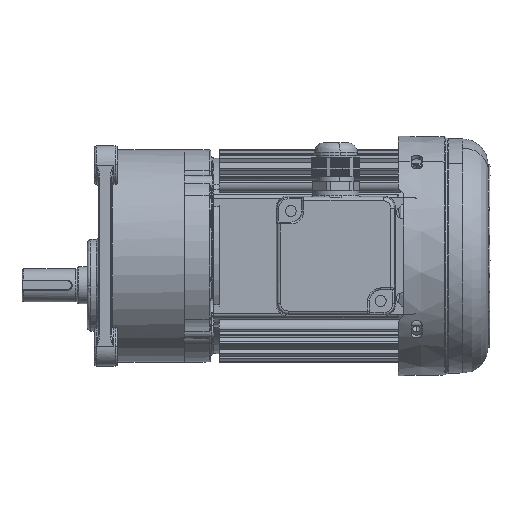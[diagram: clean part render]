
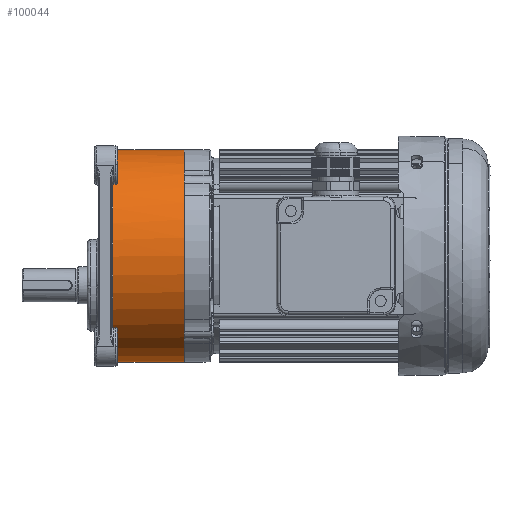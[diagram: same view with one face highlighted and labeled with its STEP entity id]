
A CAD part, left-side view. The second image highlights one B-rep face of the part: STEP entity #100044.
In plain terms, the highlighted cylindrical face has radius 58 mm (diameter 116 mm), a partial arc.
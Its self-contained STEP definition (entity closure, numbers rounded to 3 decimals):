
#33091 = FACE_OUTER_BOUND ( 'NONE', #99547, .T. ) ;
#33098 = AXIS2_PLACEMENT_3D ( 'NONE', #59797, #59798, #59799 ) ;
#33100 = CYLINDRICAL_SURFACE ( 'NONE', #33098, 58. ) ;
#33165 = AXIS2_PLACEMENT_3D ( 'NONE', #60262, #60263, #60264 ) ;
#50969 = CARTESIAN_POINT ( 'NONE',  ( -57.999, 40.5, -0.323 ) ) ;
#50970 = CARTESIAN_POINT ( 'NONE',  ( 0., 40.5, 58. ) ) ;
#51122 = CARTESIAN_POINT ( 'NONE',  ( 0., 1.5, 58. ) ) ;
#51123 = CARTESIAN_POINT ( 'NONE',  ( 0., 1.5, -58. ) ) ;
#51124 = CARTESIAN_POINT ( 'NONE',  ( 0., 40.5, -58. ) ) ;
#54385 = CIRCLE ( 'NONE', #33165, 58. ) ;
#54505 = CIRCLE ( 'NONE', #65187, 58. ) ;
#54506 = CIRCLE ( 'NONE', #65183, 58. ) ;
#59797 = CARTESIAN_POINT ( 'NONE',  ( 0., 0., 0. ) ) ;
#59798 = DIRECTION ( 'NONE',  ( 0., 1., 0. ) ) ;
#59799 = DIRECTION ( 'NONE',  ( 0., 0., 1. ) ) ;
#60262 = CARTESIAN_POINT ( 'NONE',  ( 0., 40.5, 0. ) ) ;
#60263 = DIRECTION ( 'NONE',  ( 0., 1., 0. ) ) ;
#60264 = DIRECTION ( 'NONE',  ( 1., 0., 0. ) ) ;
#63266 = LINE ( 'NONE', #63267, #111455 ) ;
#63267 = CARTESIAN_POINT ( 'NONE',  ( 0., 0., -58. ) ) ;
#63268 = DIRECTION ( 'NONE',  ( 0., 1., 0. ) ) ;
#63274 = CARTESIAN_POINT ( 'NONE',  ( 0., 1.5, 0. ) ) ;
#63275 = LINE ( 'NONE', #63276, #65189 ) ;
#63276 = CARTESIAN_POINT ( 'NONE',  ( 0., 0., 58. ) ) ;
#63277 = DIRECTION ( 'NONE',  ( 0., 1., 0. ) ) ;
#63278 = DIRECTION ( 'NONE',  ( 0., 1., 0. ) ) ;
#63279 = DIRECTION ( 'NONE',  ( 0., 0., -1. ) ) ;
#63280 = CARTESIAN_POINT ( 'NONE',  ( 0., 40.5, 0. ) ) ;
#63281 = DIRECTION ( 'NONE',  ( 0., 1., 0. ) ) ;
#63282 = DIRECTION ( 'NONE',  ( 1., 0., 0. ) ) ;
#65183 = AXIS2_PLACEMENT_3D ( 'NONE', #63280, #63281, #63282 ) ;
#65187 = AXIS2_PLACEMENT_3D ( 'NONE', #63274, #63278, #63279 ) ;
#65189 = VECTOR ( 'NONE', #63277, 1000. ) ;
#99204 = VERTEX_POINT ( 'NONE', #50969 ) ;
#99205 = VERTEX_POINT ( 'NONE', #50970 ) ;
#99339 = VERTEX_POINT ( 'NONE', #51122 ) ;
#99340 = VERTEX_POINT ( 'NONE', #51123 ) ;
#99341 = VERTEX_POINT ( 'NONE', #51124 ) ;
#99547 = EDGE_LOOP ( 'NONE', ( #100464, #100465, #100463, #100467, #100466 ) ) ;
#100044 = ADVANCED_FACE ( 'NONE', ( #33091 ), #33100, .T. ) ;
#100086 = EDGE_CURVE ( 'NONE', #99204, #99205, #54385, .T. ) ;
#100463 = ORIENTED_EDGE ( 'NONE', *, *, #104049, .T. ) ;
#100464 = ORIENTED_EDGE ( 'NONE', *, *, #104046, .F. ) ;
#100465 = ORIENTED_EDGE ( 'NONE', *, *, #104050, .T. ) ;
#100466 = ORIENTED_EDGE ( 'NONE', *, *, #104051, .F. ) ;
#100467 = ORIENTED_EDGE ( 'NONE', *, *, #100086, .F. ) ;
#104046 = EDGE_CURVE ( 'NONE', #99340, #99341, #63266, .T. ) ;
#104049 = EDGE_CURVE ( 'NONE', #99339, #99205, #63275, .T. ) ;
#104050 = EDGE_CURVE ( 'NONE', #99340, #99339, #54505, .T. ) ;
#104051 = EDGE_CURVE ( 'NONE', #99341, #99204, #54506, .T. ) ;
#111455 = VECTOR ( 'NONE', #63268, 1000. ) ;
